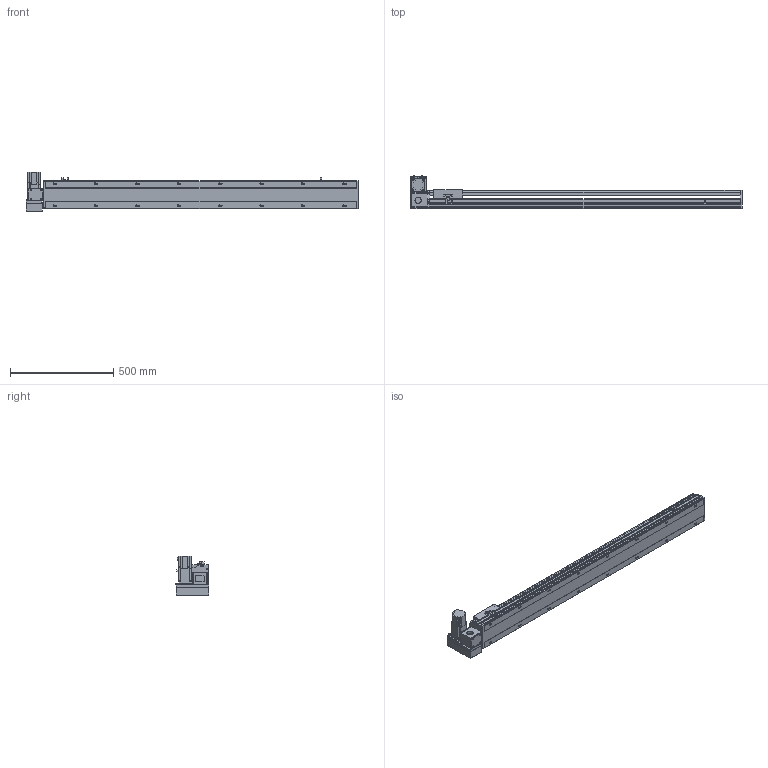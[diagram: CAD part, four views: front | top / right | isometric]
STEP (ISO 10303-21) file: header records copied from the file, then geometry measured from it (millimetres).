
FILE_DESCRIPTION(/* description */ ('STEP AP214'),/* implementation_level */ '2;1');
FILE_NAME(/* name */ 'PBS140S-P40-S1250-LU-T40-C1-N(0)',/* time_stamp */ '2022-06-09T02:34:27+02:00',/* author */ ('License CC BY-ND 4.0'),/* organization */ ('CADENAS'),/* preprocessor_version */ 'ST-DEVELOPER v18.102',/* originating_system */ 'PARTsolutions',/* authorisation */ ' ');
FILE_SCHEMA (('AUTOMOTIVE_DESIGN {1 0 10303 214 3 1 1}'));
Length unit declared in the file: millimetre
Products named in the file (7): PBS140S-P40-S1250-LU-T40-C1-N(0); PBS140S_sensor; PBS140S_plant; PBS140S_sliser; T40-p1; PBS140ST-LU_motors; PBS140S-S1250()_body
Assembly tree (8 placements, depth 2):
  PBS140S-P40-S1250-LU-T40-C1-N(0)
    PBS140S_sensor  x3
    PBS140S_plant
    PBS140S_sliser
    T40-p1
    PBS140ST-LU_motors
    PBS140S-S1250()_body
Bounding box: 1604 x 162.5 x 189.7 mm (x, y, z)
Volume: 8179343.9 mm3; surface area: 1404792.8 mm2
Topology: 8 solids, 8 shells, 1099 faces, 2911 edges, 1905 vertices
Faces by surface type: plane 702, cylinder 345, cone 42, sphere 8, torus 2
Full cylindrical faces by diameter (mm): 3.242 x4, 4 x2, 4.134 x4, 4.4 x8, 4.5 x2, 4.8 x4, 4.917 x24, 5.5 x7, 6 x2, 7 x18, 7.5 x8, 8 x12, 8.5 x4, 10.5 x16, 14 x1, 30 x2, 50 x2
Entity records: 31496 total; most frequent: CARTESIAN_POINT 5816, DIRECTION 5348, ORIENTED_EDGE 5062, EDGE_CURVE 2531, AXIS2_PLACEMENT_3D 1859, VERTEX_POINT 1753, LINE 1630, VECTOR 1630
